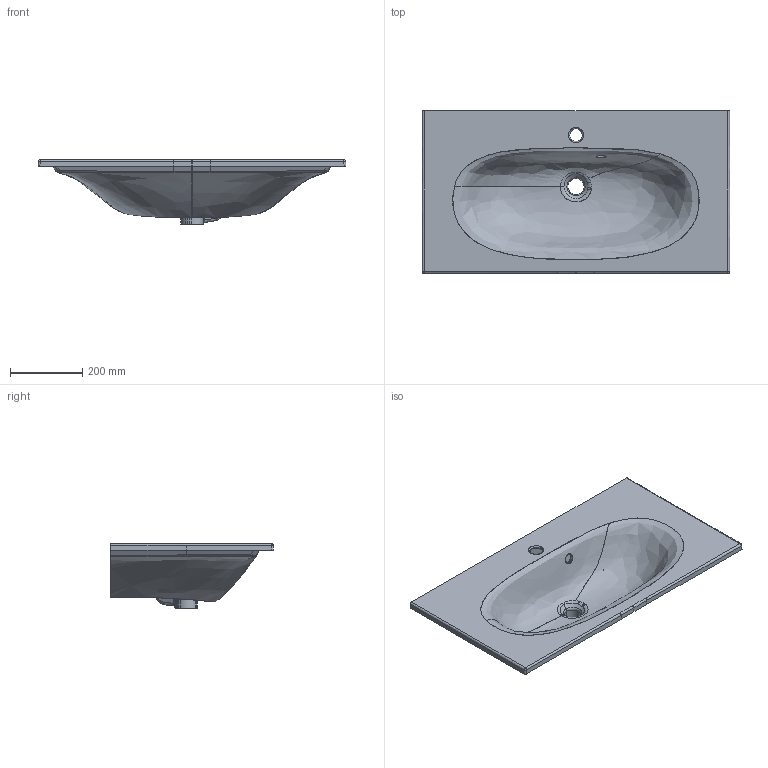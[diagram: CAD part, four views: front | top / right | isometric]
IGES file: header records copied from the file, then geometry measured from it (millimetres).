
Start section: START RECORD GO HERE.
Global section: file name: modello Lavabo ergo 85.igs; native system: DASSAULT SYSTEMES CATIA V5 R19 - www.3ds.com; preprocessor: CATIA Version 5 Release 19 SP 5 ; author: Luca; organization: DESKTOP-V7SON24; date: 20201027.115124; units: millimetre
Bounding box: 851.26 x 450.63 x 178.76 mm (x, y, z)
Surface area: 1146677.2 mm2 (no closed solid volume)
Topology: 0 solids, 0 shells, 403 faces, 2004 edges, 1996 vertices
Faces by surface type: bspline 383, plane 20
